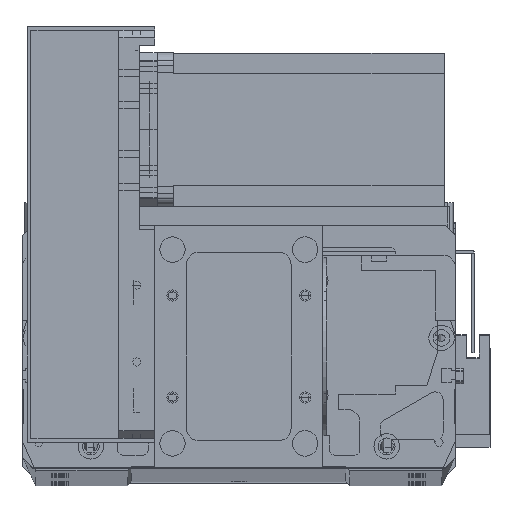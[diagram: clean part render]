
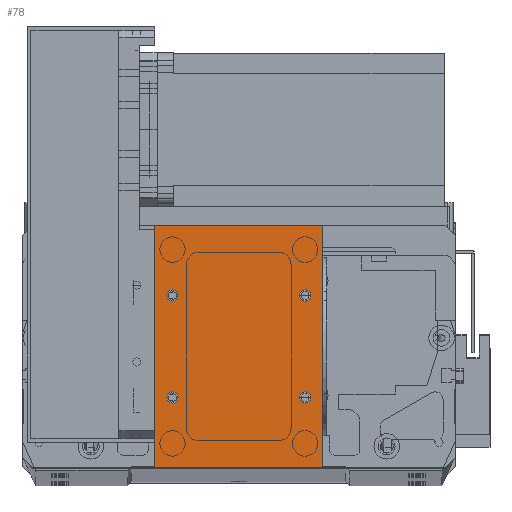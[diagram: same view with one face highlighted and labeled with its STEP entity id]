
A CAD part, top view. The second image highlights one B-rep face of the part: STEP entity #78.
In plain terms, the highlighted planar face has unit normal (0, 0, 1).
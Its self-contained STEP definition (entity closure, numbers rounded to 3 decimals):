
#15 = EDGE_CURVE ( 'NONE', #19074, #16182, #12100, .T. ) ;
#78 = ADVANCED_FACE ( 'NONE', ( #16818, #2454, #30394, #24020, #23178 ), #33259, .F. ) ;
#145 = VERTEX_POINT ( 'NONE', #14472 ) ;
#307 = CARTESIAN_POINT ( 'NONE',  ( 61.25, 27.5, 2. ) ) ;
#627 = DIRECTION ( 'NONE',  ( 0., 0., 1. ) ) ;
#833 = VERTEX_POINT ( 'NONE', #15112 ) ;
#854 = DIRECTION ( 'NONE',  ( 1., 0., 0. ) ) ;
#998 = VERTEX_POINT ( 'NONE', #2512 ) ;
#1017 = CARTESIAN_POINT ( 'NONE',  ( 4.75, 27.5, 2. ) ) ;
#1697 = CARTESIAN_POINT ( 'NONE',  ( 4.75, 67.5, 2. ) ) ;
#2240 = EDGE_CURVE ( 'NONE', #15731, #11170, #17105, .T. ) ;
#2454 = FACE_BOUND ( 'NONE', #4581, .T. ) ;
#2512 = CARTESIAN_POINT ( 'NONE',  ( 66., 95., 2. ) ) ;
#3836 = DIRECTION ( 'NONE',  ( -1., 0., 0. ) ) ;
#4581 = EDGE_LOOP ( 'NONE', ( #25474, #33152 ) ) ;
#5172 = EDGE_CURVE ( 'NONE', #11170, #15731, #18680, .T. ) ;
#5219 = EDGE_CURVE ( 'NONE', #12413, #833, #25878, .T. ) ;
#6328 = ORIENTED_EDGE ( 'NONE', *, *, #2240, .F. ) ;
#6397 = ORIENTED_EDGE ( 'NONE', *, *, #23876, .T. ) ;
#6409 = CARTESIAN_POINT ( 'NONE',  ( 0., 0., 2. ) ) ;
#8216 = EDGE_CURVE ( 'NONE', #34197, #998, #14196, .T. ) ;
#8226 = DIRECTION ( 'NONE',  ( 0., 0., 1. ) ) ;
#8678 = AXIS2_PLACEMENT_3D ( 'NONE', #33251, #17000, #854 ) ;
#8871 = ORIENTED_EDGE ( 'NONE', *, *, #23451, .T. ) ;
#9408 = ORIENTED_EDGE ( 'NONE', *, *, #28227, .F. ) ;
#9636 = ORIENTED_EDGE ( 'NONE', *, *, #15334, .F. ) ;
#9890 = CARTESIAN_POINT ( 'NONE',  ( 7., 67.5, 2. ) ) ;
#9932 = CARTESIAN_POINT ( 'NONE',  ( 7., 27.5, 2. ) ) ;
#10109 = ORIENTED_EDGE ( 'NONE', *, *, #5219, .F. ) ;
#10950 = EDGE_CURVE ( 'NONE', #34408, #30489, #31506, .T. ) ;
#11170 = VERTEX_POINT ( 'NONE', #11881 ) ;
#11881 = CARTESIAN_POINT ( 'NONE',  ( 9.25, 27.5, 2. ) ) ;
#12100 = CIRCLE ( 'NONE', #21072, 2.25 ) ;
#12123 = CARTESIAN_POINT ( 'NONE',  ( 56.75, 67.5, 2. ) ) ;
#12413 = VERTEX_POINT ( 'NONE', #1697 ) ;
#12608 = DIRECTION ( 'NONE',  ( 1., 0., 0. ) ) ;
#12651 = DIRECTION ( 'NONE',  ( 1., 0., 0. ) ) ;
#12682 = CARTESIAN_POINT ( 'NONE',  ( 0., 0., 2. ) ) ;
#13105 = CIRCLE ( 'NONE', #16273, 2.25 ) ;
#13106 = AXIS2_PLACEMENT_3D ( 'NONE', #9932, #28956, #12651 ) ;
#13341 = DIRECTION ( 'NONE',  ( 1., 0., 0. ) ) ;
#13737 = CARTESIAN_POINT ( 'NONE',  ( 61.25, 67.5, 2. ) ) ;
#14196 = LINE ( 'NONE', #33352, #28649 ) ;
#14326 = DIRECTION ( 'NONE',  ( 0., 1., 0. ) ) ;
#14472 = CARTESIAN_POINT ( 'NONE',  ( 0., 95., 2. ) ) ;
#14554 = DIRECTION ( 'NONE',  ( -1., 0., 0. ) ) ;
#15107 = CARTESIAN_POINT ( 'NONE',  ( 59., 67.5, 2. ) ) ;
#15112 = CARTESIAN_POINT ( 'NONE',  ( 9.25, 67.5, 2. ) ) ;
#15334 = EDGE_CURVE ( 'NONE', #16182, #19074, #26470, .T. ) ;
#15502 = CARTESIAN_POINT ( 'NONE',  ( 59., 27.5, 2. ) ) ;
#15536 = AXIS2_PLACEMENT_3D ( 'NONE', #24513, #8226, #27236 ) ;
#15663 = CARTESIAN_POINT ( 'NONE',  ( 66., 0., 2. ) ) ;
#15731 = VERTEX_POINT ( 'NONE', #1017 ) ;
#16182 = VERTEX_POINT ( 'NONE', #307 ) ;
#16273 = AXIS2_PLACEMENT_3D ( 'NONE', #15107, #34131, #17870 ) ;
#16286 = CIRCLE ( 'NONE', #24157, 2.25 ) ;
#16761 = CARTESIAN_POINT ( 'NONE',  ( 7., 27.5, 2. ) ) ;
#16818 = FACE_BOUND ( 'NONE', #20942, .T. ) ;
#16855 = VECTOR ( 'NONE', #28995, 1000. ) ;
#17000 = DIRECTION ( 'NONE',  ( 0., 0., 1. ) ) ;
#17105 = CIRCLE ( 'NONE', #13106, 2.25 ) ;
#17870 = DIRECTION ( 'NONE',  ( 1., 0., 0. ) ) ;
#18257 = DIRECTION ( 'NONE',  ( 1., 0., 0. ) ) ;
#18680 = CIRCLE ( 'NONE', #34911, 2.25 ) ;
#19074 = VERTEX_POINT ( 'NONE', #26847 ) ;
#19476 = DIRECTION ( 'NONE',  ( 1., 0., 0. ) ) ;
#20717 = ORIENTED_EDGE ( 'NONE', *, *, #26154, .T. ) ;
#20942 = EDGE_LOOP ( 'NONE', ( #9408, #10109 ) ) ;
#21072 = AXIS2_PLACEMENT_3D ( 'NONE', #31765, #25509, #32926 ) ;
#21468 = CARTESIAN_POINT ( 'NONE',  ( 0., 0., 2. ) ) ;
#21519 = EDGE_LOOP ( 'NONE', ( #9636, #21837 ) ) ;
#21837 = ORIENTED_EDGE ( 'NONE', *, *, #15, .F. ) ;
#23178 = FACE_OUTER_BOUND ( 'NONE', #33883, .T. ) ;
#23451 = EDGE_CURVE ( 'NONE', #145, #24446, #24905, .T. ) ;
#23876 = EDGE_CURVE ( 'NONE', #998, #145, #27818, .T. ) ;
#24020 = FACE_BOUND ( 'NONE', #31315, .T. ) ;
#24157 = AXIS2_PLACEMENT_3D ( 'NONE', #9890, #28906, #12608 ) ;
#24446 = VERTEX_POINT ( 'NONE', #31295 ) ;
#24513 = CARTESIAN_POINT ( 'NONE',  ( 59., 67.5, 2. ) ) ;
#24905 = LINE ( 'NONE', #12682, #16855 ) ;
#25220 = AXIS2_PLACEMENT_3D ( 'NONE', #15502, #34532, #18257 ) ;
#25474 = ORIENTED_EDGE ( 'NONE', *, *, #10950, .F. ) ;
#25495 = CARTESIAN_POINT ( 'NONE',  ( 0., 95., 2. ) ) ;
#25509 = DIRECTION ( 'NONE',  ( 0., 0., 1. ) ) ;
#25878 = CIRCLE ( 'NONE', #8678, 2.25 ) ;
#26154 = EDGE_CURVE ( 'NONE', #24446, #34197, #34652, .T. ) ;
#26470 = CIRCLE ( 'NONE', #25220, 2.25 ) ;
#26847 = CARTESIAN_POINT ( 'NONE',  ( 56.75, 27.5, 2. ) ) ;
#27236 = DIRECTION ( 'NONE',  ( 1., 0., 0. ) ) ;
#27386 = VECTOR ( 'NONE', #13341, 1000. ) ;
#27818 = LINE ( 'NONE', #25495, #34227 ) ;
#28227 = EDGE_CURVE ( 'NONE', #833, #12413, #16286, .T. ) ;
#28649 = VECTOR ( 'NONE', #14326, 1000. ) ;
#28906 = DIRECTION ( 'NONE',  ( 0., 0., 1. ) ) ;
#28956 = DIRECTION ( 'NONE',  ( 0., 0., 1. ) ) ;
#28995 = DIRECTION ( 'NONE',  ( 0., -1., 0. ) ) ;
#30394 = FACE_BOUND ( 'NONE', #21519, .T. ) ;
#30489 = VERTEX_POINT ( 'NONE', #12123 ) ;
#30565 = EDGE_CURVE ( 'NONE', #30489, #34408, #13105, .T. ) ;
#30730 = ORIENTED_EDGE ( 'NONE', *, *, #5172, .F. ) ;
#31295 = CARTESIAN_POINT ( 'NONE',  ( 0., 0., 2. ) ) ;
#31315 = EDGE_LOOP ( 'NONE', ( #30730, #6328 ) ) ;
#31506 = CIRCLE ( 'NONE', #15536, 2.25 ) ;
#31765 = CARTESIAN_POINT ( 'NONE',  ( 59., 27.5, 2. ) ) ;
#31987 = AXIS2_PLACEMENT_3D ( 'NONE', #6409, #33330, #14554 ) ;
#32926 = DIRECTION ( 'NONE',  ( 1., 0., 0. ) ) ;
#33152 = ORIENTED_EDGE ( 'NONE', *, *, #30565, .F. ) ;
#33251 = CARTESIAN_POINT ( 'NONE',  ( 7., 67.5, 2. ) ) ;
#33259 = PLANE ( 'NONE',  #31987 ) ;
#33330 = DIRECTION ( 'NONE',  ( 0., 0., -1. ) ) ;
#33352 = CARTESIAN_POINT ( 'NONE',  ( 66., 0., 2. ) ) ;
#33883 = EDGE_LOOP ( 'NONE', ( #8871, #20717, #34270, #6397 ) ) ;
#34131 = DIRECTION ( 'NONE',  ( 0., 0., 1. ) ) ;
#34197 = VERTEX_POINT ( 'NONE', #15663 ) ;
#34227 = VECTOR ( 'NONE', #3836, 1000. ) ;
#34270 = ORIENTED_EDGE ( 'NONE', *, *, #8216, .T. ) ;
#34408 = VERTEX_POINT ( 'NONE', #13737 ) ;
#34532 = DIRECTION ( 'NONE',  ( 0., 0., 1. ) ) ;
#34652 = LINE ( 'NONE', #21468, #27386 ) ;
#34911 = AXIS2_PLACEMENT_3D ( 'NONE', #16761, #627, #19476 ) ;
